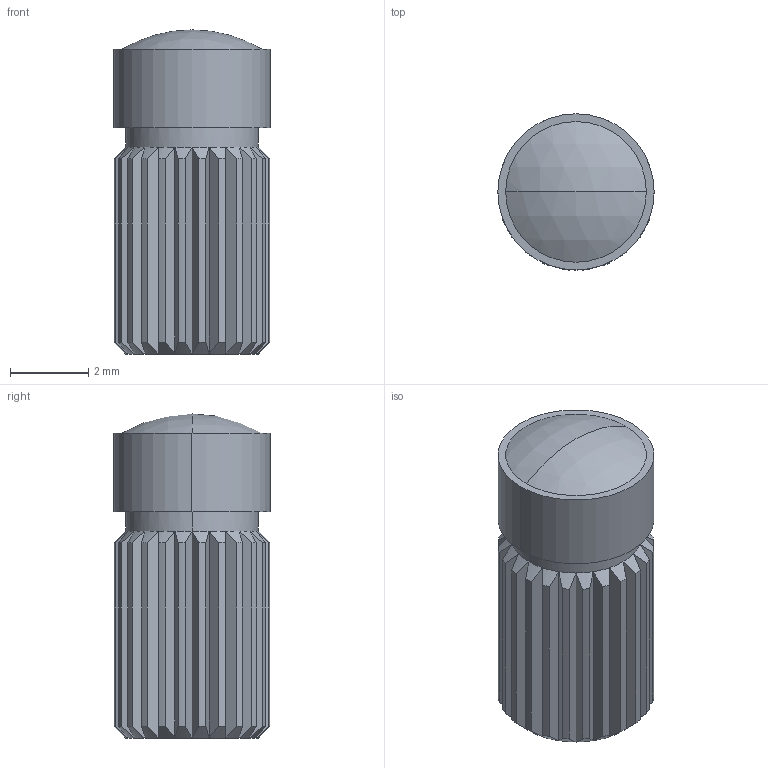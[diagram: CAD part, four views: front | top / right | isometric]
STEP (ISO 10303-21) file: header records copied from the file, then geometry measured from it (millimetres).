
FILE_DESCRIPTION (( 'STEP AP214' ), '1' );
FILE_NAME ('FTL-M26.STEP', '2019-06-18T02:39:28', ( '' ), ( '' ), 'SwSTEP 2.0', 'SolidWorks 2018', '' );
FILE_SCHEMA (( 'AUTOMOTIVE_DESIGN' ));
Length unit declared in the file: millimetre
Products named in the file (1): FTL-M26
Bounding box: 4 x 4 x 8.3 mm (x, y, z)
Volume: 62.1 mm3; surface area: 232.2 mm2
Topology: 1 solids, 1 shells, 152 faces, 344 edges, 197 vertices
Faces by surface type: plane 53, cone 50, cylinder 44, bspline 3, sphere 2
Entity records: 5274 total; most frequent: CARTESIAN_POINT 2093, ORIENTED_EDGE 688, DIRECTION 617, EDGE_CURVE 344, AXIS2_PLACEMENT_3D 261, VERTEX_POINT 197, EDGE_LOOP 155, ADVANCED_FACE 152
